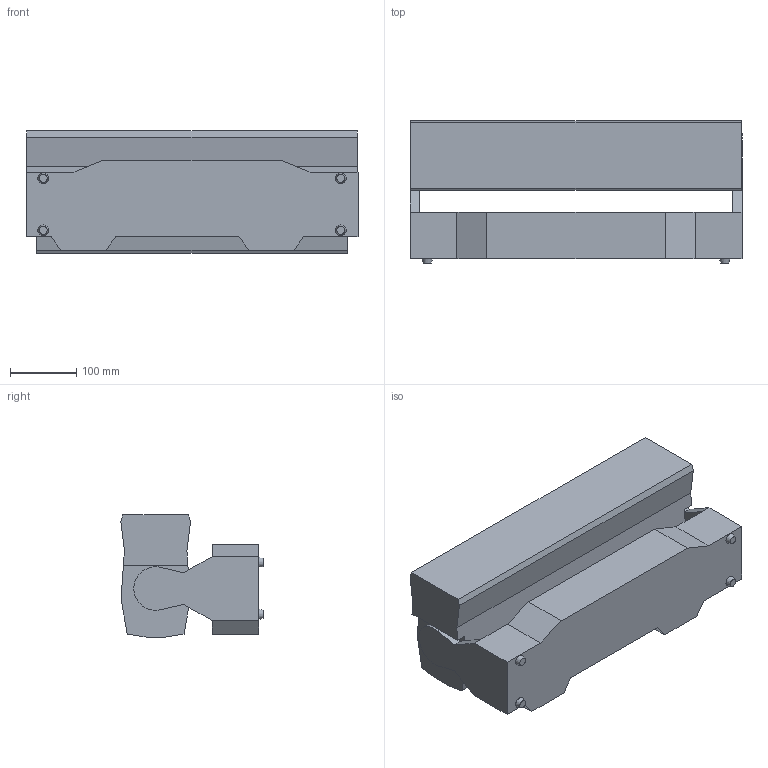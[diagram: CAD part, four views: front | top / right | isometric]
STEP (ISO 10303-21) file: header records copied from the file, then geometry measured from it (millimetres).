
FILE_DESCRIPTION(/* description */ (''),/* implementation_level */ '2;1');
FILE_NAME(/* name */ 'D:\dgooch\Documents\CADENG\PRO\COLORado PXL 8\90\COLORado PXL 8_90.stp',/* time_stamp */ '2021-04-21T16:19:45-04:00',/* author */ ('dgooch'),/* organization */ (''),/* preprocessor_version */ 'ST-DEVELOPER v18.1',/* originating_system */ 'Autodesk Inventor 2021',/* authorisation */ '');
FILE_SCHEMA (('AUTOMOTIVE_DESIGN { 1 0 10303 214 3 1 1 }'));
Length unit declared in the file: millimetre
Products named in the file (3): COLORado PXL 8; Base; Head
Assembly tree (2 placements, depth 2):
  COLORado PXL 8
    Base
    Head
Bounding box: 499.83 x 214.53 x 184.16 mm (x, y, z)
Volume: 12835599.4 mm3; surface area: 539718.4 mm2
Topology: 2 solids, 2 shells, 54 faces, 138 edges, 92 vertices
Faces by surface type: plane 47, cone 4, cylinder 3
Entity records: 1739 total; most frequent: CARTESIAN_POINT 289, ORIENTED_EDGE 276, DIRECTION 270, EDGE_CURVE 138, LINE 124, VECTOR 124, VERTEX_POINT 92, AXIS2_PLACEMENT_3D 73
